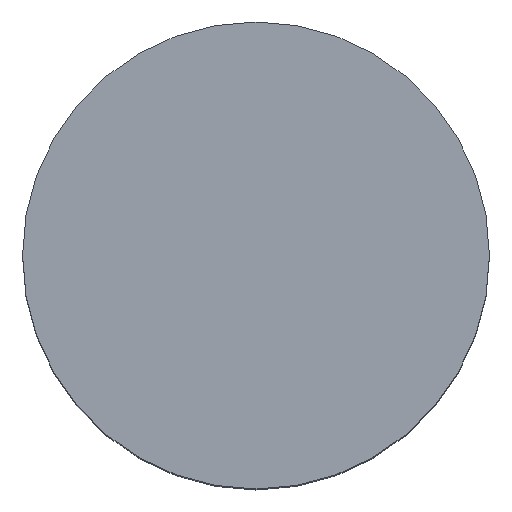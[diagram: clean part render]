
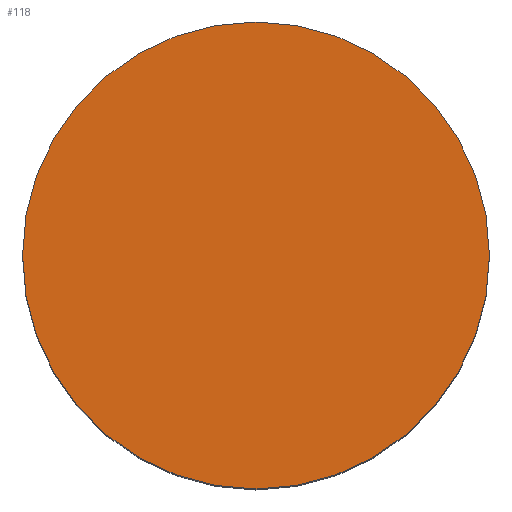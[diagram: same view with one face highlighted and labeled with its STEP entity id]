
A CAD part, top view. The second image highlights one B-rep face of the part: STEP entity #118.
In plain terms, the highlighted planar face has unit normal (0, 0, 1).
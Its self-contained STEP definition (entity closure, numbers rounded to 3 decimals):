
#118=ADVANCED_FACE('',(#128),#120,.T.);
#120=PLANE('',#215);
#128=FACE_OUTER_BOUND('',#136,.T.);
#136=EDGE_LOOP('',(#163,#164));
#163=ORIENTED_EDGE('',*,*,#186,.T.);
#164=ORIENTED_EDGE('',*,*,#184,.T.);
#171=VERTEX_POINT('',#281);
#172=VERTEX_POINT('',#283);
#184=EDGE_CURVE('',#172,#171,#195,.T.);
#186=EDGE_CURVE('',#171,#172,#196,.T.);
#195=CIRCLE('',#211,25.);
#196=CIRCLE('',#213,25.);
#211=AXIS2_PLACEMENT_3D('',#282,#247,#248);
#213=AXIS2_PLACEMENT_3D('',#286,#252,#253);
#215=AXIS2_PLACEMENT_3D('',#288,#256,#257);
#247=DIRECTION('',(0.,0.,1.));
#248=DIRECTION('',(0.,-1.,0.));
#252=DIRECTION('',(0.,0.,1.));
#253=DIRECTION('',(0.,1.,0.));
#256=DIRECTION('',(0.,0.,1.));
#257=DIRECTION('',(0.,1.,0.));
#281=CARTESIAN_POINT('',(-25.,0.,62.));
#282=CARTESIAN_POINT('',(0.,0.,62.));
#283=CARTESIAN_POINT('',(25.,0.,62.));
#286=CARTESIAN_POINT('',(0.,0.,62.));
#288=CARTESIAN_POINT('',(0.,0.,62.));
